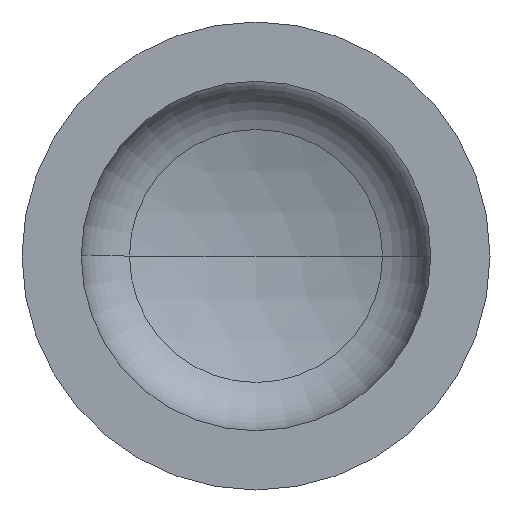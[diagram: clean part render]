
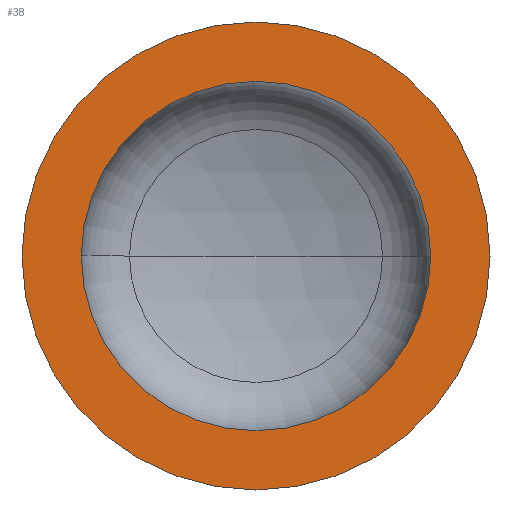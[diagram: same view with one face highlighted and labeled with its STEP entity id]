
A CAD part, front view. The second image highlights one B-rep face of the part: STEP entity #38.
In plain terms, the highlighted planar face has unit normal (0, -1, 0).
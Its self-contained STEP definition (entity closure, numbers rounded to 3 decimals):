
#12 = VERTEX_POINT ( 'NONE', #258 ) ;
#21 = CARTESIAN_POINT ( 'NONE',  ( -336., 0., 0. ) ) ;
#23 = EDGE_LOOP ( 'NONE', ( #57, #92 ) ) ;
#38 = ADVANCED_FACE ( 'NONE', ( #391, #325 ), #274, .F. ) ;
#40 = AXIS2_PLACEMENT_3D ( 'NONE', #357, #359, #297 ) ;
#49 = AXIS2_PLACEMENT_3D ( 'NONE', #308, #306, #305 ) ;
#50 = AXIS2_PLACEMENT_3D ( 'NONE', #321, #315, #314 ) ;
#51 = AXIS2_PLACEMENT_3D ( 'NONE', #250, #278, #279 ) ;
#57 = ORIENTED_EDGE ( 'NONE', *, *, #65, .T. ) ;
#60 = EDGE_CURVE ( 'NONE', #12, #159, #185, .T. ) ;
#61 = EDGE_CURVE ( 'NONE', #127, #179, #381, .T. ) ;
#65 = EDGE_CURVE ( 'NONE', #159, #12, #173, .T. ) ;
#76 = EDGE_LOOP ( 'NONE', ( #192, #151 ) ) ;
#92 = ORIENTED_EDGE ( 'NONE', *, *, #60, .T. ) ;
#115 = CARTESIAN_POINT ( 'NONE',  ( 0., 0., 0. ) ) ;
#122 = DIRECTION ( 'NONE',  ( 0., -1., 0. ) ) ;
#127 = VERTEX_POINT ( 'NONE', #209 ) ;
#151 = ORIENTED_EDGE ( 'NONE', *, *, #407, .F. ) ;
#159 = VERTEX_POINT ( 'NONE', #216 ) ;
#173 = CIRCLE ( 'NONE', #40, 450. ) ;
#179 = VERTEX_POINT ( 'NONE', #21 ) ;
#185 = CIRCLE ( 'NONE', #50, 450. ) ;
#192 = ORIENTED_EDGE ( 'NONE', *, *, #61, .F. ) ;
#209 = CARTESIAN_POINT ( 'NONE',  ( 336., 0., 0. ) ) ;
#216 = CARTESIAN_POINT ( 'NONE',  ( 450., 0., 0. ) ) ;
#250 = CARTESIAN_POINT ( 'NONE',  ( -450., 0., 0. ) ) ;
#258 = CARTESIAN_POINT ( 'NONE',  ( -450., 0., 0. ) ) ;
#274 = PLANE ( 'NONE',  #51 ) ;
#278 = DIRECTION ( 'NONE',  ( 0., 1., 0. ) ) ;
#279 = DIRECTION ( 'NONE',  ( -1., 0., 0. ) ) ;
#297 = DIRECTION ( 'NONE',  ( 1., 0., 0. ) ) ;
#305 = DIRECTION ( 'NONE',  ( 1., 0., 0. ) ) ;
#306 = DIRECTION ( 'NONE',  ( 0., -1., 0. ) ) ;
#308 = CARTESIAN_POINT ( 'NONE',  ( 0., 0., 0. ) ) ;
#313 = CIRCLE ( 'NONE', #373, 336. ) ;
#314 = DIRECTION ( 'NONE',  ( 1., 0., 0. ) ) ;
#315 = DIRECTION ( 'NONE',  ( 0., -1., 0. ) ) ;
#321 = CARTESIAN_POINT ( 'NONE',  ( 0., 0., 0. ) ) ;
#325 = FACE_OUTER_BOUND ( 'NONE', #23, .T. ) ;
#347 = DIRECTION ( 'NONE',  ( 1., 0., 0. ) ) ;
#357 = CARTESIAN_POINT ( 'NONE',  ( 0., 0., 0. ) ) ;
#359 = DIRECTION ( 'NONE',  ( 0., -1., 0. ) ) ;
#373 = AXIS2_PLACEMENT_3D ( 'NONE', #115, #122, #347 ) ;
#381 = CIRCLE ( 'NONE', #49, 336. ) ;
#391 = FACE_BOUND ( 'NONE', #76, .T. ) ;
#407 = EDGE_CURVE ( 'NONE', #179, #127, #313, .T. ) ;
